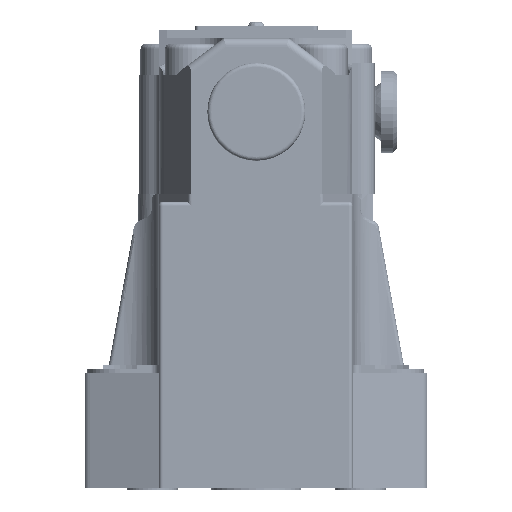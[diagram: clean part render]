
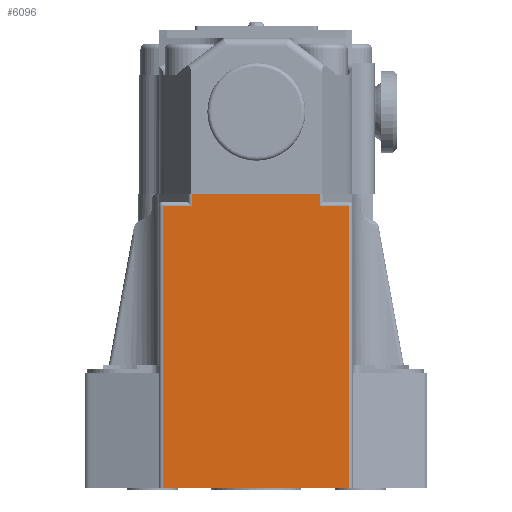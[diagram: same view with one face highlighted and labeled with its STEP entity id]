
A CAD part, left-side view. The second image highlights one B-rep face of the part: STEP entity #6096.
In plain terms, the highlighted planar face has unit normal (-1, 0, 0).
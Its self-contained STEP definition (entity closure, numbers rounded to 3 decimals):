
#1103=FACE_OUTER_BOUND('',#7810,.T.);
#2083=LINE('',#92765,#3084);
#2084=LINE('',#92771,#3085);
#2085=LINE('',#92774,#3086);
#2086=LINE('',#92776,#3087);
#2087=LINE('',#92777,#3088);
#2088=LINE('',#92779,#3089);
#2089=LINE('',#92781,#3090);
#2090=LINE('',#92783,#3091);
#3084=VECTOR('',#22755,1.);
#3085=VECTOR('',#22762,1.);
#3086=VECTOR('',#22763,1.);
#3087=VECTOR('',#22764,1.);
#3088=VECTOR('',#22765,1.);
#3089=VECTOR('',#22766,1.);
#3090=VECTOR('',#22767,1.);
#3091=VECTOR('',#22768,1.);
#5191=PLANE('',#19304);
#6096=ADVANCED_FACE('',(#1103),#5191,.T.);
#7810=EDGE_LOOP('',(#12253,#12254,#12255,#12256,#12257,#12258,#12259,#12260));
#12253=ORIENTED_EDGE('',*,*,#17220,.T.);
#12254=ORIENTED_EDGE('',*,*,#17221,.T.);
#12255=ORIENTED_EDGE('',*,*,#17222,.T.);
#12256=ORIENTED_EDGE('',*,*,#17217,.F.);
#12257=ORIENTED_EDGE('',*,*,#17223,.T.);
#12258=ORIENTED_EDGE('',*,*,#17224,.T.);
#12259=ORIENTED_EDGE('',*,*,#17225,.T.);
#12260=ORIENTED_EDGE('',*,*,#17226,.F.);
#14788=VERTEX_POINT('',#92764);
#14789=VERTEX_POINT('',#92766);
#14791=VERTEX_POINT('',#92772);
#14792=VERTEX_POINT('',#92773);
#14793=VERTEX_POINT('',#92775);
#14794=VERTEX_POINT('',#92778);
#14795=VERTEX_POINT('',#92780);
#14796=VERTEX_POINT('',#92782);
#17217=EDGE_CURVE('',#14788,#14789,#2083,.T.);
#17220=EDGE_CURVE('',#14791,#14792,#2084,.T.);
#17221=EDGE_CURVE('',#14792,#14793,#2085,.T.);
#17222=EDGE_CURVE('',#14793,#14789,#2086,.T.);
#17223=EDGE_CURVE('',#14788,#14794,#2087,.T.);
#17224=EDGE_CURVE('',#14794,#14795,#2088,.T.);
#17225=EDGE_CURVE('',#14795,#14796,#2089,.T.);
#17226=EDGE_CURVE('',#14791,#14796,#2090,.T.);
#19304=AXIS2_PLACEMENT_3D('',#92784,#22769,#22770);
#22755=DIRECTION('',(0.,-1.,0.));
#22762=DIRECTION('',(0.,0.,1.));
#22763=DIRECTION('',(0.,1.,0.));
#22764=DIRECTION('',(0.,0.,1.));
#22765=DIRECTION('',(0.,0.,-1.));
#22766=DIRECTION('',(0.,1.,0.));
#22767=DIRECTION('',(0.,0.,-1.));
#22768=DIRECTION('',(0.,1.,0.));
#22769=DIRECTION('',(-1.,0.,0.));
#22770=DIRECTION('',(0.,0.,-1.));
#92764=CARTESIAN_POINT('',(-17.712,65.731,70.));
#92765=CARTESIAN_POINT('',(-17.712,94.047,70.));
#92766=CARTESIAN_POINT('',(-17.712,34.363,70.));
#92771=CARTESIAN_POINT('',(-17.712,27.297,68.));
#92772=CARTESIAN_POINT('',(-17.712,27.297,-2.));
#92773=CARTESIAN_POINT('',(-17.712,27.297,67.));
#92774=CARTESIAN_POINT('',(-17.712,34.363,67.));
#92775=CARTESIAN_POINT('',(-17.712,34.363,67.));
#92776=CARTESIAN_POINT('',(-17.712,34.363,13.923));
#92777=CARTESIAN_POINT('',(-17.712,65.731,13.923));
#92778=CARTESIAN_POINT('',(-17.712,65.731,67.));
#92779=CARTESIAN_POINT('',(-17.712,72.797,67.));
#92780=CARTESIAN_POINT('',(-17.712,72.797,67.));
#92781=CARTESIAN_POINT('',(-17.712,72.797,-2.));
#92782=CARTESIAN_POINT('',(-17.712,72.797,-2.));
#92783=CARTESIAN_POINT('',(-17.712,94.047,-2.));
#92784=CARTESIAN_POINT('',(-17.712,94.047,13.923));
